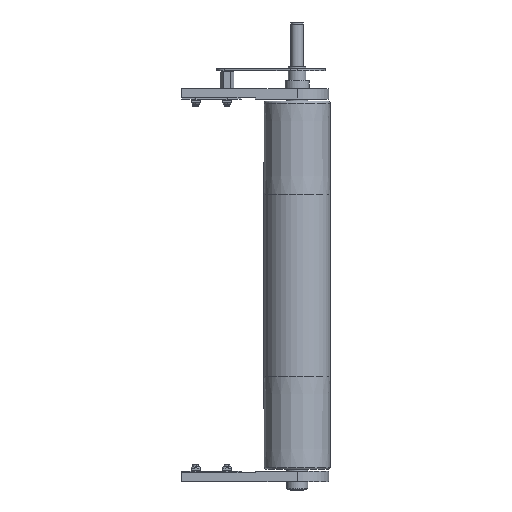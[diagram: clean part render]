
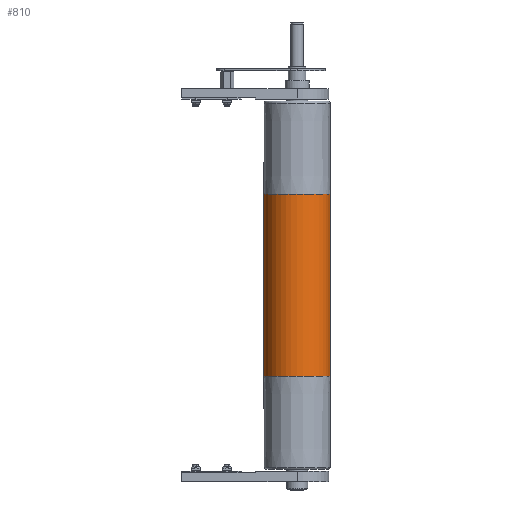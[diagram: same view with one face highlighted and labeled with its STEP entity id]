
A CAD part, front view. The second image highlights one B-rep face of the part: STEP entity #810.
In plain terms, the highlighted cylindrical face has radius 47.5 mm (diameter 95 mm), a partial arc.
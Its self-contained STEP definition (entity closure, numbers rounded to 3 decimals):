
#231 = VERTEX_POINT ( 'NONE', #7686 ) ;
#269 = LINE ( 'NONE', #10681, #20494 ) ;
#810 = ADVANCED_FACE ( 'NONE', ( #8604 ), #16101, .T. ) ;
#1337 = LINE ( 'NONE', #7559, #14797 ) ;
#1685 = CARTESIAN_POINT ( 'NONE',  ( 130., 0., -47.5 ) ) ;
#2504 = AXIS2_PLACEMENT_3D ( 'NONE', #10938, #2921, #7793 ) ;
#2921 = DIRECTION ( 'NONE',  ( -1., 0., 0. ) ) ;
#6140 = VERTEX_POINT ( 'NONE', #1685 ) ;
#6150 = CARTESIAN_POINT ( 'NONE',  ( 130., 0., 0. ) ) ;
#6499 = DIRECTION ( 'NONE',  ( 1., 0., 0. ) ) ;
#6552 = CARTESIAN_POINT ( 'NONE',  ( -130., 0., 0. ) ) ;
#7345 = ORIENTED_EDGE ( 'NONE', *, *, #20027, .T. ) ;
#7559 = CARTESIAN_POINT ( 'NONE',  ( 260., 0., -47.5 ) ) ;
#7686 = CARTESIAN_POINT ( 'NONE',  ( -130., 0., -47.5 ) ) ;
#7793 = DIRECTION ( 'NONE',  ( 0., 0., 1. ) ) ;
#7813 = DIRECTION ( 'NONE',  ( 0., 0., -1. ) ) ;
#8604 = FACE_OUTER_BOUND ( 'NONE', #20340, .T. ) ;
#10554 = CARTESIAN_POINT ( 'NONE',  ( -130., 0., 47.5 ) ) ;
#10681 = CARTESIAN_POINT ( 'NONE',  ( 260., 0., 47.5 ) ) ;
#10938 = CARTESIAN_POINT ( 'NONE',  ( 260., 0., 0. ) ) ;
#11133 = VERTEX_POINT ( 'NONE', #10554 ) ;
#11424 = EDGE_CURVE ( 'NONE', #17451, #6140, #18568, .T. ) ;
#13806 = EDGE_CURVE ( 'NONE', #17451, #11133, #269, .T. ) ;
#13961 = DIRECTION ( 'NONE',  ( -1., 0., 0. ) ) ;
#14271 = DIRECTION ( 'NONE',  ( 1., 0., 0. ) ) ;
#14797 = VECTOR ( 'NONE', #13961, 1000. ) ;
#14988 = AXIS2_PLACEMENT_3D ( 'NONE', #6552, #6499, #19179 ) ;
#15345 = CIRCLE ( 'NONE', #14988, 47.5 ) ;
#15656 = AXIS2_PLACEMENT_3D ( 'NONE', #6150, #14271, #7813 ) ;
#15971 = ORIENTED_EDGE ( 'NONE', *, *, #13806, .T. ) ;
#16087 = CARTESIAN_POINT ( 'NONE',  ( 130., 0., 47.5 ) ) ;
#16101 = CYLINDRICAL_SURFACE ( 'NONE', #2504, 47.5 ) ;
#17002 = EDGE_CURVE ( 'NONE', #6140, #231, #1337, .T. ) ;
#17451 = VERTEX_POINT ( 'NONE', #16087 ) ;
#18568 = CIRCLE ( 'NONE', #15656, 47.5 ) ;
#18618 = DIRECTION ( 'NONE',  ( -1., 0., 0. ) ) ;
#19179 = DIRECTION ( 'NONE',  ( 0., 0., -1. ) ) ;
#19555 = ORIENTED_EDGE ( 'NONE', *, *, #11424, .F. ) ;
#20027 = EDGE_CURVE ( 'NONE', #11133, #231, #15345, .T. ) ;
#20340 = EDGE_LOOP ( 'NONE', ( #20608, #19555, #15971, #7345 ) ) ;
#20494 = VECTOR ( 'NONE', #18618, 1000. ) ;
#20608 = ORIENTED_EDGE ( 'NONE', *, *, #17002, .F. ) ;
